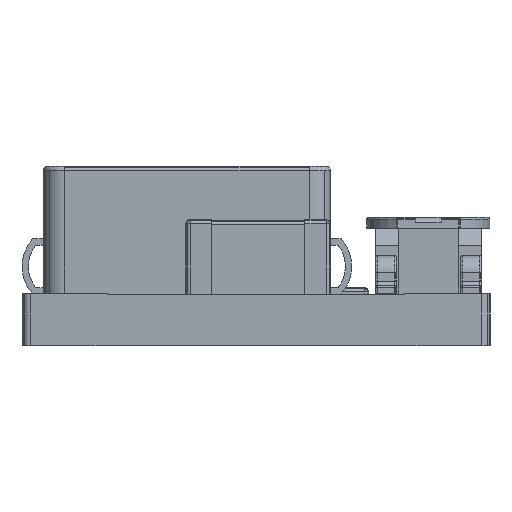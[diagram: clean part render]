
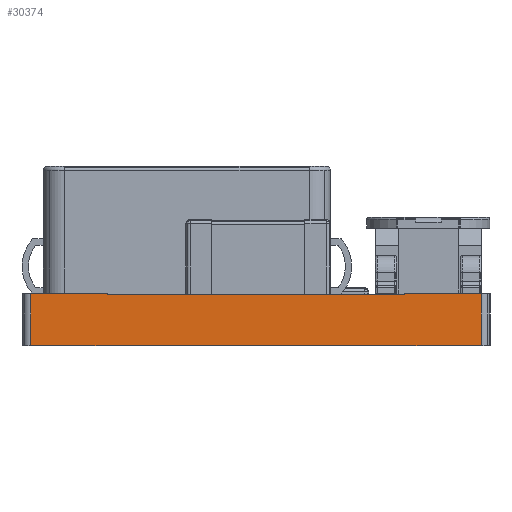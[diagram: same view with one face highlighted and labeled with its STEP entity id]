
A CAD part, left-side view. The second image highlights one B-rep face of the part: STEP entity #30374.
In plain terms, the highlighted planar face has unit normal (-1, 0, 0).
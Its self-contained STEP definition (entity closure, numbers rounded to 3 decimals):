
#25 = ORIENTED_EDGE ( 'NONE', *, *, #57979, .F. ) ;
#1616 = DIRECTION ( 'NONE',  ( 0., -1., 0. ) ) ;
#1682 = VERTEX_POINT ( 'NONE', #27633 ) ;
#2495 = CARTESIAN_POINT ( 'NONE',  ( -8.625, 3.5, 0.61 ) ) ;
#3654 = LINE ( 'NONE', #66516, #75661 ) ;
#3755 = VECTOR ( 'NONE', #23348, 1000. ) ;
#3974 = VERTEX_POINT ( 'NONE', #28801 ) ;
#4513 = LINE ( 'NONE', #9792, #34386 ) ;
#5468 = ORIENTED_EDGE ( 'NONE', *, *, #44849, .F. ) ;
#6782 = CARTESIAN_POINT ( 'NONE',  ( -8.625, 3.5, 0.61 ) ) ;
#9160 = CARTESIAN_POINT ( 'NONE',  ( -8.625, 3.5, -0.61 ) ) ;
#9357 = VERTEX_POINT ( 'NONE', #53411 ) ;
#9408 = DIRECTION ( 'NONE',  ( 0., 1., 0. ) ) ;
#9769 = CARTESIAN_POINT ( 'NONE',  ( -8.625, -3.5, 0.6 ) ) ;
#9792 = CARTESIAN_POINT ( 'NONE',  ( -8.625, -5.5, -0.61 ) ) ;
#11882 = CARTESIAN_POINT ( 'NONE',  ( -8.625, 3.5, 0.6 ) ) ;
#11930 = EDGE_CURVE ( 'NONE', #50270, #12335, #45559, .T. ) ;
#12335 = VERTEX_POINT ( 'NONE', #22987 ) ;
#13420 = DIRECTION ( 'NONE',  ( 0., 0., -1. ) ) ;
#13824 = CARTESIAN_POINT ( 'NONE',  ( -8.625, -3.5, -0.61 ) ) ;
#14061 = VECTOR ( 'NONE', #20018, 1000. ) ;
#15829 = ORIENTED_EDGE ( 'NONE', *, *, #77046, .F. ) ;
#15830 = FACE_OUTER_BOUND ( 'NONE', #28243, .T. ) ;
#15974 = CARTESIAN_POINT ( 'NONE',  ( -8.625, -5.3, -0.61 ) ) ;
#16162 = LINE ( 'NONE', #9769, #3755 ) ;
#19394 = LINE ( 'NONE', #68253, #60287 ) ;
#19594 = DIRECTION ( 'NONE',  ( 0., -1., 0. ) ) ;
#20018 = DIRECTION ( 'NONE',  ( 0., 0., -1. ) ) ;
#22843 = CARTESIAN_POINT ( 'NONE',  ( -8.625, -3.5, -0.6 ) ) ;
#22987 = CARTESIAN_POINT ( 'NONE',  ( -8.625, 5.3, 0.61 ) ) ;
#23348 = DIRECTION ( 'NONE',  ( 0., 0., 1. ) ) ;
#23442 = ORIENTED_EDGE ( 'NONE', *, *, #66389, .F. ) ;
#23663 = DIRECTION ( 'NONE',  ( 0., 0., -1. ) ) ;
#24773 = VERTEX_POINT ( 'NONE', #13824 ) ;
#25283 = EDGE_CURVE ( 'NONE', #1682, #60489, #79200, .T. ) ;
#26683 = CARTESIAN_POINT ( 'NONE',  ( -8.625, 3.5, -0.6 ) ) ;
#27633 = CARTESIAN_POINT ( 'NONE',  ( -8.625, -3.5, -0.6 ) ) ;
#27634 = LINE ( 'NONE', #76515, #75246 ) ;
#28243 = EDGE_LOOP ( 'NONE', ( #72898, #25, #67582, #29984, #38044, #15829, #48126, #5468, #54462, #37537, #31786, #23442 ) ) ;
#28645 = DIRECTION ( 'NONE',  ( -1., 0., 0. ) ) ;
#28801 = CARTESIAN_POINT ( 'NONE',  ( -8.625, -3.5, 0.61 ) ) ;
#29368 = EDGE_CURVE ( 'NONE', #73508, #55764, #3654, .T. ) ;
#29984 = ORIENTED_EDGE ( 'NONE', *, *, #25283, .F. ) ;
#30374 = ADVANCED_FACE ( 'NONE', ( #15830 ), #35425, .T. ) ;
#31786 = ORIENTED_EDGE ( 'NONE', *, *, #29368, .T. ) ;
#31961 = CARTESIAN_POINT ( 'NONE',  ( -8.625, 5.3, -0.61 ) ) ;
#32238 = DIRECTION ( 'NONE',  ( 0., 1., 0. ) ) ;
#32513 = CARTESIAN_POINT ( 'NONE',  ( -8.625, 5.5, 0.6 ) ) ;
#34386 = VECTOR ( 'NONE', #9408, 1000. ) ;
#34653 = CARTESIAN_POINT ( 'NONE',  ( -8.625, 5.5, 0. ) ) ;
#35425 = PLANE ( 'NONE',  #78472 ) ;
#37225 = LINE ( 'NONE', #6782, #52778 ) ;
#37537 = ORIENTED_EDGE ( 'NONE', *, *, #70509, .F. ) ;
#38044 = ORIENTED_EDGE ( 'NONE', *, *, #60049, .T. ) ;
#38272 = LINE ( 'NONE', #73545, #74545 ) ;
#39950 = DIRECTION ( 'NONE',  ( 0., 0., 1. ) ) ;
#43693 = EDGE_CURVE ( 'NONE', #50910, #3974, #16162, .T. ) ;
#44849 = EDGE_CURVE ( 'NONE', #3974, #9357, #27634, .T. ) ;
#45559 = LINE ( 'NONE', #71554, #64853 ) ;
#47711 = DIRECTION ( 'NONE',  ( 0., 0., 1. ) ) ;
#48126 = ORIENTED_EDGE ( 'NONE', *, *, #64849, .F. ) ;
#48648 = CARTESIAN_POINT ( 'NONE',  ( -8.625, 5.5, -0.6 ) ) ;
#50270 = VERTEX_POINT ( 'NONE', #31961 ) ;
#50398 = CARTESIAN_POINT ( 'NONE',  ( -8.625, 3.5, -0.6 ) ) ;
#50910 = VERTEX_POINT ( 'NONE', #68520 ) ;
#52778 = VECTOR ( 'NONE', #19594, 1000. ) ;
#52982 = DIRECTION ( 'NONE',  ( 0., 0., 1. ) ) ;
#53411 = CARTESIAN_POINT ( 'NONE',  ( -8.625, -5.3, 0.61 ) ) ;
#54462 = ORIENTED_EDGE ( 'NONE', *, *, #43693, .F. ) ;
#55764 = VERTEX_POINT ( 'NONE', #2495 ) ;
#57156 = VECTOR ( 'NONE', #75089, 1000. ) ;
#57224 = LINE ( 'NONE', #50398, #14061 ) ;
#57979 = EDGE_CURVE ( 'NONE', #68753, #50270, #4513, .T. ) ;
#60049 = EDGE_CURVE ( 'NONE', #1682, #24773, #78587, .T. ) ;
#60287 = VECTOR ( 'NONE', #13420, 1000. ) ;
#60489 = VERTEX_POINT ( 'NONE', #26683 ) ;
#64361 = VERTEX_POINT ( 'NONE', #15974 ) ;
#64849 = EDGE_CURVE ( 'NONE', #9357, #64361, #19394, .T. ) ;
#64853 = VECTOR ( 'NONE', #39950, 1000. ) ;
#66389 = EDGE_CURVE ( 'NONE', #12335, #55764, #37225, .T. ) ;
#66467 = VECTOR ( 'NONE', #1616, 1000. ) ;
#66516 = CARTESIAN_POINT ( 'NONE',  ( -8.625, 3.5, 0.6 ) ) ;
#66787 = DIRECTION ( 'NONE',  ( 0., -1., 0. ) ) ;
#67582 = ORIENTED_EDGE ( 'NONE', *, *, #75179, .F. ) ;
#68253 = CARTESIAN_POINT ( 'NONE',  ( -8.625, -5.3, 0. ) ) ;
#68520 = CARTESIAN_POINT ( 'NONE',  ( -8.625, -3.5, 0.6 ) ) ;
#68753 = VERTEX_POINT ( 'NONE', #9160 ) ;
#70509 = EDGE_CURVE ( 'NONE', #73508, #50910, #74548, .T. ) ;
#71554 = CARTESIAN_POINT ( 'NONE',  ( -8.625, 5.3, 0. ) ) ;
#72898 = ORIENTED_EDGE ( 'NONE', *, *, #11930, .F. ) ;
#73508 = VERTEX_POINT ( 'NONE', #11882 ) ;
#73545 = CARTESIAN_POINT ( 'NONE',  ( -8.625, -5.5, -0.61 ) ) ;
#74361 = VECTOR ( 'NONE', #23663, 1000. ) ;
#74545 = VECTOR ( 'NONE', #32238, 1000. ) ;
#74548 = LINE ( 'NONE', #32513, #66467 ) ;
#75089 = DIRECTION ( 'NONE',  ( 0., 1., 0. ) ) ;
#75179 = EDGE_CURVE ( 'NONE', #60489, #68753, #57224, .T. ) ;
#75246 = VECTOR ( 'NONE', #66787, 1000. ) ;
#75661 = VECTOR ( 'NONE', #47711, 1000. ) ;
#76515 = CARTESIAN_POINT ( 'NONE',  ( -8.625, 5.5, 0.61 ) ) ;
#77046 = EDGE_CURVE ( 'NONE', #64361, #24773, #38272, .T. ) ;
#78472 = AXIS2_PLACEMENT_3D ( 'NONE', #34653, #28645, #52982 ) ;
#78587 = LINE ( 'NONE', #22843, #74361 ) ;
#79200 = LINE ( 'NONE', #48648, #57156 ) ;
